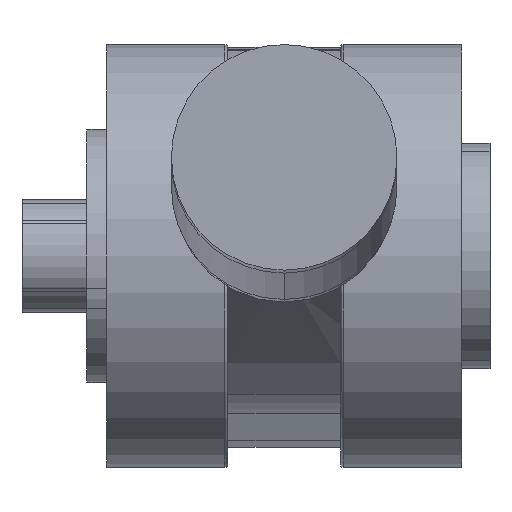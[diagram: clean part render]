
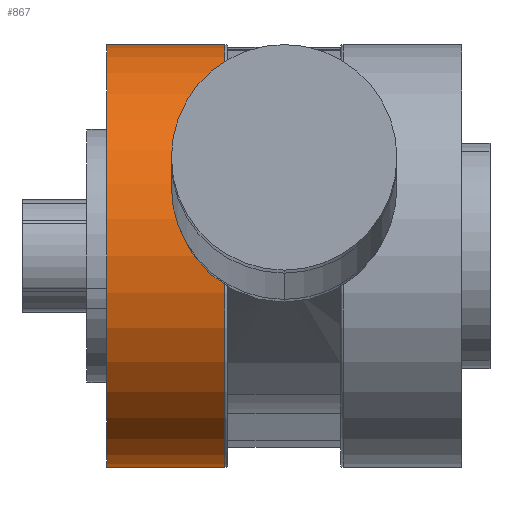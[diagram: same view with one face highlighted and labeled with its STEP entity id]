
A CAD part, front view. The second image highlights one B-rep face of the part: STEP entity #867.
In plain terms, the highlighted cylindrical face has radius 7.5 mm (diameter 15 mm), a partial arc.
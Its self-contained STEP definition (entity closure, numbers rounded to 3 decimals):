
#1 = CARTESIAN_POINT ( 'NONE',  ( 0., 0., 4.2 ) ) ;
#23 = DIRECTION ( 'NONE',  ( -1., 0., 0. ) ) ;
#40 = DIRECTION ( 'NONE',  ( 0., 0., -1. ) ) ;
#47 = EDGE_CURVE ( 'NONE', #518, #1105, #805, .T. ) ;
#137 = CARTESIAN_POINT ( 'NONE',  ( 7.5, 0., 0. ) ) ;
#228 = CIRCLE ( 'NONE', #1104, 7.5 ) ;
#263 = EDGE_CURVE ( 'NONE', #1105, #1641, #1376, .T. ) ;
#288 = CARTESIAN_POINT ( 'NONE',  ( 7.5, 0., 4.3 ) ) ;
#293 = CARTESIAN_POINT ( 'NONE',  ( -7.5, 0., 4.2 ) ) ;
#308 = FACE_OUTER_BOUND ( 'NONE', #1667, .T. ) ;
#323 = CARTESIAN_POINT ( 'NONE',  ( -7.5, 0., 4.3 ) ) ;
#373 = LINE ( 'NONE', #288, #1008 ) ;
#431 = DIRECTION ( 'NONE',  ( 0., 0., -1. ) ) ;
#439 = AXIS2_PLACEMENT_3D ( 'NONE', #1, #1551, #1419 ) ;
#518 = VERTEX_POINT ( 'NONE', #1633 ) ;
#542 = ORIENTED_EDGE ( 'NONE', *, *, #47, .T. ) ;
#593 = CARTESIAN_POINT ( 'NONE',  ( 0., 0., 0. ) ) ;
#622 = ORIENTED_EDGE ( 'NONE', *, *, #1073, .F. ) ;
#707 = VERTEX_POINT ( 'NONE', #137 ) ;
#713 = VECTOR ( 'NONE', #40, 1000. ) ;
#719 = DIRECTION ( 'NONE',  ( 1., 0., 0. ) ) ;
#805 = CIRCLE ( 'NONE', #439, 7.5 ) ;
#811 = CARTESIAN_POINT ( 'NONE',  ( 0., 0., 4.3 ) ) ;
#867 = ADVANCED_FACE ( 'NONE', ( #308 ), #1277, .T. ) ;
#1008 = VECTOR ( 'NONE', #1174, 1000. ) ;
#1073 = EDGE_CURVE ( 'NONE', #518, #707, #373, .T. ) ;
#1104 = AXIS2_PLACEMENT_3D ( 'NONE', #593, #1470, #719 ) ;
#1105 = VERTEX_POINT ( 'NONE', #293 ) ;
#1174 = DIRECTION ( 'NONE',  ( 0., 0., -1. ) ) ;
#1277 = CYLINDRICAL_SURFACE ( 'NONE', #1614, 7.5 ) ;
#1322 = ORIENTED_EDGE ( 'NONE', *, *, #263, .T. ) ;
#1376 = LINE ( 'NONE', #323, #713 ) ;
#1380 = EDGE_CURVE ( 'NONE', #1641, #707, #228, .T. ) ;
#1419 = DIRECTION ( 'NONE',  ( 1., 0., 0. ) ) ;
#1424 = CARTESIAN_POINT ( 'NONE',  ( -7.5, 0., 0. ) ) ;
#1470 = DIRECTION ( 'NONE',  ( 0., 0., 1. ) ) ;
#1551 = DIRECTION ( 'NONE',  ( 0., 0., -1. ) ) ;
#1614 = AXIS2_PLACEMENT_3D ( 'NONE', #811, #431, #23 ) ;
#1633 = CARTESIAN_POINT ( 'NONE',  ( 7.5, 0., 4.2 ) ) ;
#1641 = VERTEX_POINT ( 'NONE', #1424 ) ;
#1649 = ORIENTED_EDGE ( 'NONE', *, *, #1380, .T. ) ;
#1667 = EDGE_LOOP ( 'NONE', ( #622, #542, #1322, #1649 ) ) ;
